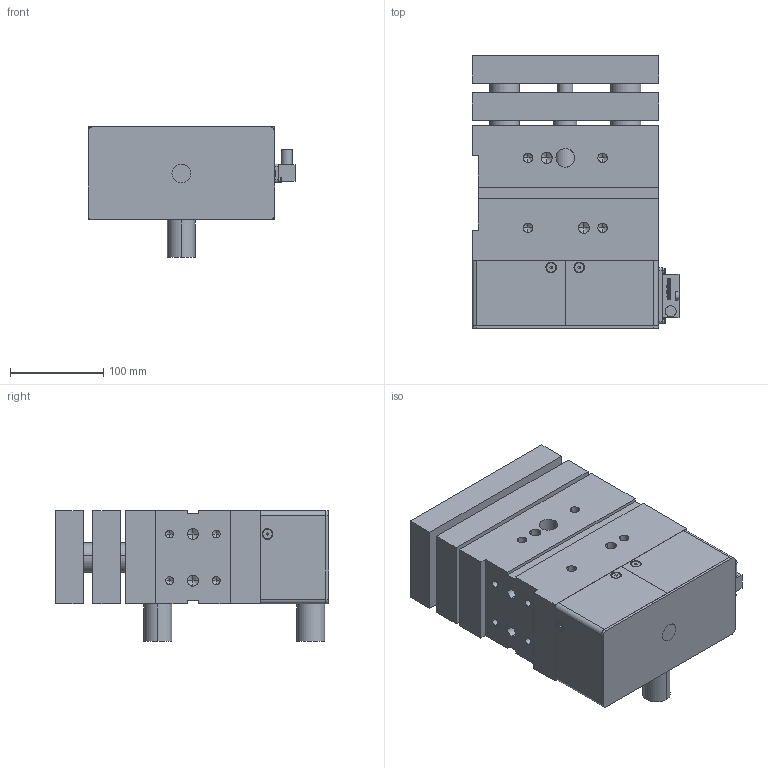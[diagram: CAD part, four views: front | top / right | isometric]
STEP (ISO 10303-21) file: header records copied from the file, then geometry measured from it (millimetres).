
FILE_DESCRIPTION(('CATIA V5 STEP Exchange'),'2;1');
FILE_NAME('G:\Konstruktion\Modelle\Step\MZVD_40_40_PR_T12_TUENKERS.stp','2011-05-18T13:04:46+00:00',('none'),('none'),'CATIA Version 5 Release 19 SP 3 (IN-10)','CATIA V5 STEP AP203','none');
FILE_SCHEMA(('CONFIG_CONTROL_DESIGN'));
Products named in the file (1): MZVD_40_40_T12_PR_TUENKERS
Bounding box: 223 x 293 x 140 mm (x, y, z)
Volume: 4071644 mm3; surface area: 613540.6 mm2
Topology: 41 solids, 45 shells, 2142 faces, 6452 edges, 4386 vertices
Faces by surface type: bspline 996, plane 690, cylinder 252, cone 164, torus 40
Entity records: 76021 total; most frequent: CARTESIAN_POINT 30455, ORIENTED_EDGE 12520, EDGE_CURVE 6260, DIRECTION 4950, VERTEX_POINT 4386, EDGE_LOOP 2408, B_SPLINE_CURVE_WITH_KNOTS 2315, ADVANCED_FACE 2142
